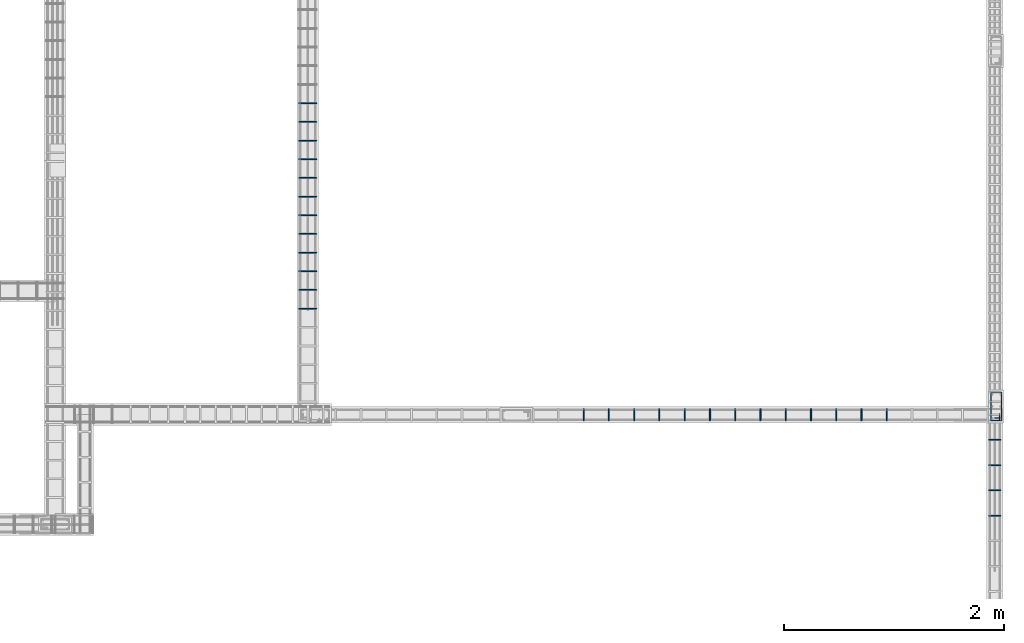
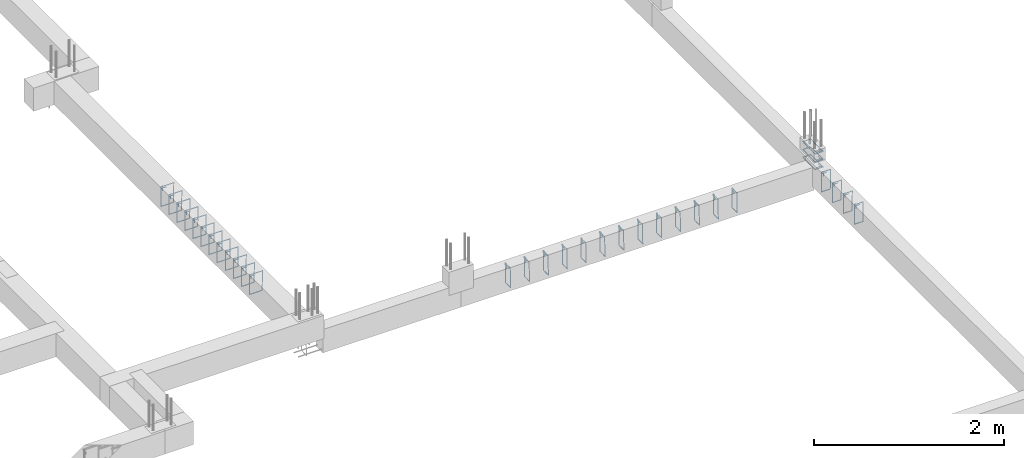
# One storey, part 93 of 150: 32 reinforcing bars.
"""IFC4 building model written with IfcOpenShell, lengths in centimetres."""

from ifc_helpers import new_model, entity, si_unit, derived_unit, frame, origin_with_axes, place, context, project, spatial, source, transform, mapped, element, save


model = new_model("IFC4")

# Units and contexts
model_context = context("Model", 3, precision=1e-05, world=origin_with_axes(), identifier="Body")
ifc_project = project(units=[si_unit("LENGTHUNIT", "METRE", prefix="CENTI"), si_unit("VOLUMEUNIT", "CUBIC_METRE"), si_unit("AREAUNIT", "SQUARE_METRE"), si_unit("POWERUNIT", "WATT"), si_unit("LUMINOUSFLUXUNIT", "LUMEN"), si_unit("ELECTRICCURRENTUNIT", "AMPERE"), si_unit("PRESSUREUNIT", "PASCAL", prefix="KILO"), si_unit("MASSUNIT", "GRAM", prefix="KILO"), si_unit("PLANEANGLEUNIT", "RADIAN"), derived_unit("VOLUMETRICFLOWRATEUNIT", [(si_unit("LENGTHUNIT", "METRE"), 3), (si_unit("TIMEUNIT", "SECOND"), -1)])], contexts=[model_context])

# Site, building, storey
site_placement = place(None, frame((-4000.0, 0.0, 0.0), z_axis=(0.0, 0.0, 1.0), x_axis=(1.0, 0.0, 0.0)))
site = spatial("IfcSite", under=ifc_project, at=site_placement, Name="PADRÃO")
building_placement = place(site_placement, frame((0.0, 0.0, -14.0)))
building = spatial("IfcBuilding", under=site, at=building_placement, Name="CRECHE PRÉ-ESCOLA TIPO 2")
placement = place(building_placement, origin_with_axes())
storey_placement = place(placement, frame((0.0, 0.0, 30.0), z_axis=(0.0, 0.0, 1.0), x_axis=(1.0, 0.0, 0.0)))
storey = spatial("IfcBuildingStorey", under=building, at=storey_placement, Name="VIGA BALDRAME", CompositionType="ELEMENT", Elevation=16.0)

# Reinforcing bars
shared_shape_1 = source(origin_with_axes(), model_context, "Body", "AdvancedSweptSolid", [
    entity("IfcSweptDiskSolid", entity("IfcCompositeCurve", [entity("IfcCompositeCurveSegment", "CONTINUOUS", True, entity("IfcPolyline", [entity("IfcCartesianPoint", [4.25, 21.75, 0.0]), entity("IfcCartesianPoint", [4.25, 27.75, 0.0])])), entity("IfcCompositeCurveSegment", "CONTINUOUS", True, entity("IfcPolyline", [entity("IfcCartesianPoint", [4.25, 27.75, 0.0]), entity("IfcCartesianPoint", [2.25, 27.75, 0.0])])), entity("IfcCompositeCurveSegment", "CONTINUOUS", True, entity("IfcPolyline", [entity("IfcCartesianPoint", [2.25, 27.75, 0.0]), entity("IfcCartesianPoint", [2.25, 2.25, 0.0])])), entity("IfcCompositeCurveSegment", "CONTINUOUS", True, entity("IfcPolyline", [entity("IfcCartesianPoint", [2.25, 2.25, 0.0]), entity("IfcCartesianPoint", [11.75, 2.25, 0.0])])), entity("IfcCompositeCurveSegment", "CONTINUOUS", True, entity("IfcPolyline", [entity("IfcCartesianPoint", [11.75, 2.25, 0.0]), entity("IfcCartesianPoint", [11.75, 27.75, -0.5])])), entity("IfcCompositeCurveSegment", "CONTINUOUS", True, entity("IfcPolyline", [entity("IfcCartesianPoint", [11.75, 27.75, -0.5]), entity("IfcCartesianPoint", [2.25, 27.75, -0.5])])), entity("IfcCompositeCurveSegment", "CONTINUOUS", True, entity("IfcPolyline", [entity("IfcCartesianPoint", [2.25, 27.75, -0.5]), entity("IfcCartesianPoint", [2.25, 25.75, -0.5])])), entity("IfcCompositeCurveSegment", "CONTINUOUS", True, entity("IfcPolyline", [entity("IfcCartesianPoint", [2.25, 25.75, -0.5]), entity("IfcCartesianPoint", [8.25, 25.75, -0.5])]))], False), 0.25),
])
for number, where, z_axis, x_axis, name in (
    (1, (4000.0, 537.51, -25.0), (0.0, 0.0, 1.0), (-1.0, 0.0, 0.0), "P142 - Estribo"),
    (2, (4000.0, 537.51, -15.0), (0.0, 0.0, 1.0), (-1.0, 0.0, 0.0), "P142 - Estribo"),
    (3, (4000.0, 537.51, -5.0), (0.0, 0.0, 1.0), (-1.0, 0.0, 0.0), "P142 - Estribo"),
):
    element("IfcReinforcingBar", number, at=place(storey_placement, frame(where, z_axis=z_axis, x_axis=x_axis)), inside=storey, Name=name, BarLength=0.0, CrossSectionArea=1.9634954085e-05, NominalDiameter=0.5, PredefinedType="MAIN", context=model_context, shape_type="MappedRepresentation", body=[
        mapped(shared_shape_1, transform((0.0, 0.0, 0.0), scale=1.0)),
    ])
shared_shape_2 = source(origin_with_axes(), model_context, "Body", "AdvancedSweptSolid", [
    entity("IfcSweptDiskSolid", entity("IfcCompositeCurve", [entity("IfcCompositeCurveSegment", "CONTINUOUS", True, entity("IfcPolyline", [entity("IfcCartesianPoint", [2.0, -6.0, 0.0]), entity("IfcCartesianPoint", [2.0, 0.0, 0.0])])), entity("IfcCompositeCurveSegment", "CONTINUOUS", True, entity("IfcPolyline", [entity("IfcCartesianPoint", [2.0, 0.0, 0.0]), entity("IfcCartesianPoint", [0.0, 0.0, 0.0])])), entity("IfcCompositeCurveSegment", "CONTINUOUS", True, entity("IfcPolyline", [entity("IfcCartesianPoint", [0.0, 0.0, 0.0]), entity("IfcCartesianPoint", [0.0, -25.5, 0.0])])), entity("IfcCompositeCurveSegment", "CONTINUOUS", True, entity("IfcPolyline", [entity("IfcCartesianPoint", [0.0, -25.5, 0.0]), entity("IfcCartesianPoint", [15.5, -25.5, 0.0])])), entity("IfcCompositeCurveSegment", "CONTINUOUS", True, entity("IfcPolyline", [entity("IfcCartesianPoint", [15.5, -25.5, 0.0]), entity("IfcCartesianPoint", [15.5, 0.0, 0.5])])), entity("IfcCompositeCurveSegment", "CONTINUOUS", True, entity("IfcPolyline", [entity("IfcCartesianPoint", [15.5, 0.0, 0.5]), entity("IfcCartesianPoint", [0.0, 0.0, 0.5])])), entity("IfcCompositeCurveSegment", "CONTINUOUS", True, entity("IfcPolyline", [entity("IfcCartesianPoint", [0.0, 0.0, 0.5]), entity("IfcCartesianPoint", [0.0, -2.0, 0.5])])), entity("IfcCompositeCurveSegment", "CONTINUOUS", True, entity("IfcPolyline", [entity("IfcCartesianPoint", [0.0, -2.0, 0.5]), entity("IfcCartesianPoint", [6.0, -2.0, 0.5])]))], False), 0.25),
])
for number, where, z_axis, x_axis, name in (
    (4, (3358.25, 781.795, -2.25), (0.0, -1.0, 0.0), (1.0, 0.0, 0.0), "V224 - Estribo"),
    (5, (3358.25, 764.795, -2.25), (0.0, -1.0, 0.0), (1.0, 0.0, 0.0), "V224 - Estribo"),
    (6, (3358.25, 747.795, -2.25), (0.0, -1.0, 0.0), (1.0, 0.0, 0.0), "V224 - Estribo"),
    (7, (3358.25, 645.795, -2.25), (0.0, -1.0, 0.0), (1.0, 0.0, 0.0), "V224 - Estribo"),
    (8, (3358.25, 611.795, -2.25), (0.0, -1.0, 0.0), (1.0, 0.0, 0.0), "V224 - Estribo"),
    (9, (3358.25, 628.795, -2.25), (0.0, -1.0, 0.0), (1.0, 0.0, 0.0), "V224 - Estribo"),
    (10, (3358.25, 662.795, -2.25), (0.0, -1.0, 0.0), (1.0, 0.0, 0.0), "V224 - Estribo"),
    (11, (3358.25, 679.795, -2.25), (0.0, -1.0, 0.0), (1.0, 0.0, 0.0), "V224 - Estribo"),
    (12, (3358.25, 696.795, -2.25), (0.0, -1.0, 0.0), (1.0, 0.0, 0.0), "V224 - Estribo"),
    (13, (3358.25, 713.795, -2.25), (0.0, -1.0, 0.0), (1.0, 0.0, 0.0), "V224 - Estribo"),
    (14, (3358.25, 730.795, -2.25), (0.0, -1.0, 0.0), (1.0, 0.0, 0.0), "V224 - Estribo"),
    (15, (3358.25, 798.795, -2.25), (0.0, -1.0, 0.0), (1.0, 0.0, 0.0), "V224 - Estribo"),
):
    element("IfcReinforcingBar", number, at=place(storey_placement, frame(where, z_axis=z_axis, x_axis=x_axis)), inside=storey, Name=name, BarLength=0.0, CrossSectionArea=1.9634954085e-05, NominalDiameter=0.5, PredefinedType="MAIN", context=model_context, shape_type="MappedRepresentation", body=[
        mapped(shared_shape_2, transform((0.0, 0.0, 0.0), scale=1.0)),
    ])
shared_shape_3 = source(origin_with_axes(), model_context, "Body", "AdvancedSweptSolid", [
    entity("IfcSweptDiskSolid", entity("IfcCompositeCurve", [entity("IfcCompositeCurveSegment", "CONTINUOUS", True, entity("IfcPolyline", [entity("IfcCartesianPoint", [2.0, -6.0, 0.0]), entity("IfcCartesianPoint", [2.0, 0.0, 0.0])])), entity("IfcCompositeCurveSegment", "CONTINUOUS", True, entity("IfcPolyline", [entity("IfcCartesianPoint", [2.0, 0.0, 0.0]), entity("IfcCartesianPoint", [0.0, 0.0, 0.0])])), entity("IfcCompositeCurveSegment", "CONTINUOUS", True, entity("IfcPolyline", [entity("IfcCartesianPoint", [0.0, 0.0, 0.0]), entity("IfcCartesianPoint", [0.0, -25.5, 0.0])])), entity("IfcCompositeCurveSegment", "CONTINUOUS", True, entity("IfcPolyline", [entity("IfcCartesianPoint", [0.0, -25.5, 0.0]), entity("IfcCartesianPoint", [10.5, -25.5, 0.0])])), entity("IfcCompositeCurveSegment", "CONTINUOUS", True, entity("IfcPolyline", [entity("IfcCartesianPoint", [10.5, -25.5, 0.0]), entity("IfcCartesianPoint", [10.5, 0.0, 0.5])])), entity("IfcCompositeCurveSegment", "CONTINUOUS", True, entity("IfcPolyline", [entity("IfcCartesianPoint", [10.5, 0.0, 0.5]), entity("IfcCartesianPoint", [0.0, 0.0, 0.5])])), entity("IfcCompositeCurveSegment", "CONTINUOUS", True, entity("IfcPolyline", [entity("IfcCartesianPoint", [0.0, 0.0, 0.5]), entity("IfcCartesianPoint", [0.0, -2.0, 0.5])])), entity("IfcCompositeCurveSegment", "CONTINUOUS", True, entity("IfcPolyline", [entity("IfcCartesianPoint", [0.0, -2.0, 0.5]), entity("IfcCartesianPoint", [6.0, -2.0, 0.5])]))], False), 0.25),
])
for number, where, z_axis, x_axis, name in (
    (16, (3986.25, 423.255, -17.25), (0.0, -1.0, 0.0), (1.0, 0.0, 0.0), "V230 - Estribo"),
    (17, (3986.25, 446.255, -17.25), (0.0, -1.0, 0.0), (1.0, 0.0, 0.0), "V230 - Estribo"),
    (18, (3986.25, 469.255, -17.25), (0.0, -1.0, 0.0), (1.0, 0.0, 0.0), "V230 - Estribo"),
    (19, (3986.25, 492.255, -17.25), (0.0, -1.0, 0.0), (1.0, 0.0, 0.0), "V230 - Estribo"),
):
    element("IfcReinforcingBar", number, at=place(storey_placement, frame(where, z_axis=z_axis, x_axis=x_axis)), inside=storey, Name=name, BarLength=0.0, CrossSectionArea=1.9634954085e-05, NominalDiameter=0.5, PredefinedType="MAIN", context=model_context, shape_type="MappedRepresentation", body=[
        mapped(shared_shape_3, transform((0.0, 0.0, 0.0), scale=1.0)),
    ])
shared_shape_4 = source(origin_with_axes(), model_context, "Body", "AdvancedSweptSolid", [
    entity("IfcSweptDiskSolid", entity("IfcCompositeCurve", [entity("IfcCompositeCurveSegment", "CONTINUOUS", True, entity("IfcPolyline", [entity("IfcCartesianPoint", [2.0, -6.0, 0.0]), entity("IfcCartesianPoint", [2.0, 0.0, 0.0])])), entity("IfcCompositeCurveSegment", "CONTINUOUS", True, entity("IfcPolyline", [entity("IfcCartesianPoint", [2.0, 0.0, 0.0]), entity("IfcCartesianPoint", [0.0, 0.0, 0.0])])), entity("IfcCompositeCurveSegment", "CONTINUOUS", True, entity("IfcPolyline", [entity("IfcCartesianPoint", [0.0, 0.0, 0.0]), entity("IfcCartesianPoint", [0.0, -25.5, 0.0])])), entity("IfcCompositeCurveSegment", "CONTINUOUS", True, entity("IfcPolyline", [entity("IfcCartesianPoint", [0.0, -25.5, 0.0]), entity("IfcCartesianPoint", [10.5, -25.5, 0.0])])), entity("IfcCompositeCurveSegment", "CONTINUOUS", True, entity("IfcPolyline", [entity("IfcCartesianPoint", [10.5, -25.5, 0.0]), entity("IfcCartesianPoint", [10.5, 0.0, 0.5])])), entity("IfcCompositeCurveSegment", "CONTINUOUS", True, entity("IfcPolyline", [entity("IfcCartesianPoint", [10.5, 0.0, 0.5]), entity("IfcCartesianPoint", [0.0, 0.0, 0.5])])), entity("IfcCompositeCurveSegment", "CONTINUOUS", True, entity("IfcPolyline", [entity("IfcCartesianPoint", [0.0, 0.0, 0.5]), entity("IfcCartesianPoint", [0.0, -2.0, 0.5])])), entity("IfcCompositeCurveSegment", "CONTINUOUS", True, entity("IfcPolyline", [entity("IfcCartesianPoint", [0.0, -2.0, 0.5]), entity("IfcCartesianPoint", [6.0, -2.0, 0.5])]))], False), 0.25),
])
for number, where, z_axis, x_axis, name in (
    (20, (3778.5, 520.26, -22.25), (-1.0, 0.0, 0.0), (0.0, -1.0, 0.0), "V153 - Estribo"),
    (21, (3893.5, 520.26, -22.25), (-1.0, 0.0, 0.0), (0.0, -1.0, 0.0), "V153 - Estribo"),
    (22, (3870.5, 520.26, -22.25), (-1.0, 0.0, 0.0), (0.0, -1.0, 0.0), "V153 - Estribo"),
    (23, (3847.5, 520.26, -22.25), (-1.0, 0.0, 0.0), (0.0, -1.0, 0.0), "V153 - Estribo"),
    (24, (3824.5, 520.26, -22.25), (-1.0, 0.0, 0.0), (0.0, -1.0, 0.0), "V153 - Estribo"),
    (25, (3801.5, 520.26, -22.25), (-1.0, 0.0, 0.0), (0.0, -1.0, 0.0), "V153 - Estribo"),
    (26, (3755.5, 520.26, -22.25), (-1.0, 0.0, 0.0), (0.0, -1.0, 0.0), "V153 - Estribo"),
    (27, (3732.5, 520.26, -22.25), (-1.0, 0.0, 0.0), (0.0, -1.0, 0.0), "V153 - Estribo"),
    (28, (3709.5, 520.26, -22.25), (-1.0, 0.0, 0.0), (0.0, -1.0, 0.0), "V153 - Estribo"),
    (29, (3686.5, 520.26, -22.25), (-1.0, 0.0, 0.0), (0.0, -1.0, 0.0), "V153 - Estribo"),
    (30, (3663.5, 520.26, -22.25), (-1.0, 0.0, 0.0), (0.0, -1.0, 0.0), "V153 - Estribo"),
    (31, (3640.5, 520.26, -22.25), (-1.0, 0.0, 0.0), (0.0, -1.0, 0.0), "V153 - Estribo"),
    (32, (3617.5, 520.26, -22.25), (-1.0, 0.0, 0.0), (0.0, -1.0, 0.0), "V153 - Estribo"),
):
    element("IfcReinforcingBar", number, at=place(storey_placement, frame(where, z_axis=z_axis, x_axis=x_axis)), inside=storey, Name=name, BarLength=0.0, CrossSectionArea=1.9634954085e-05, NominalDiameter=0.5, PredefinedType="MAIN", context=model_context, shape_type="MappedRepresentation", body=[
        mapped(shared_shape_4, transform((0.0, 0.0, 0.0), scale=1.0)),
    ])

save(model, "model.ifc")
